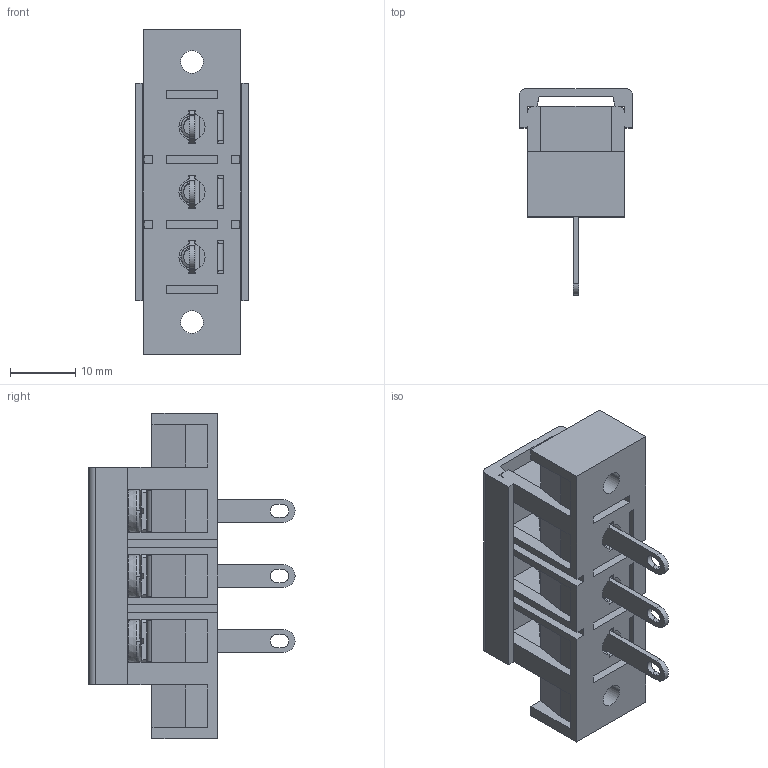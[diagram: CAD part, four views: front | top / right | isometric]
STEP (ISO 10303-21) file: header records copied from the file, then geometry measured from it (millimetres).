
FILE_DESCRIPTION((''),'2;1');
FILE_NAME('3PIN','2021-05-25T',('hanke'),(''),'CREO PARAMETRIC BY PTC INC, 2016260','CREO PARAMETRIC BY PTC INC, 2016260','');
FILE_SCHEMA(('CONFIG_CONTROL_DESIGN'));
Products named in the file (1): 3PIN
Bounding box: 17.4 x 31.7 x 50 mm (x, y, z)
Volume: 7215.5 mm3; surface area: 10755.1 mm2
Topology: 1 solids, 13 shells, 1355 faces, 3905 edges, 2538 vertices
Faces by surface type: plane 848, cylinder 250, bspline 211, cone 24, torus 22
Entity records: 68644 total; most frequent: CARTESIAN_POINT 35440, ORIENTED_EDGE 7798, DIRECTION 5640, EDGE_CURVE 3899, VERTEX_POINT 2538, VECTOR 2240, LINE 2240, AXIS2_PLACEMENT_3D 1700
